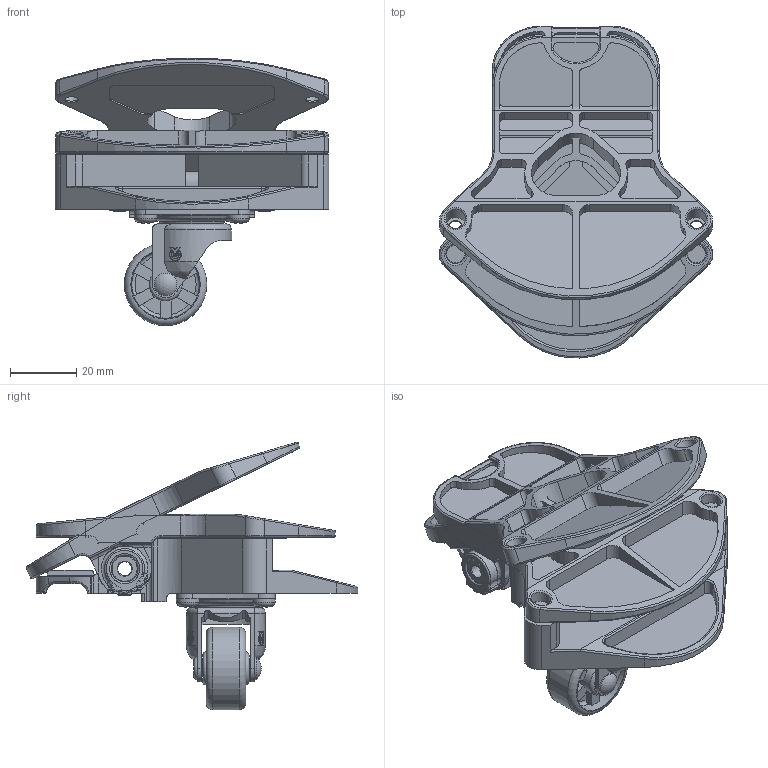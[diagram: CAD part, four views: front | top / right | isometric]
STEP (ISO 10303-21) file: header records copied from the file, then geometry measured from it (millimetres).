
FILE_DESCRIPTION(/* description */ (''),/* implementation_level */ '2;1');
FILE_NAME(/* name */ 'Z:\01-DesignData\標準品図面\★Web／カタログ用データ(型式別 3点Set)\014-CT-C／CT-B／CT-B-I(インダストリアルの意) 系\CT-C\CT-C 型.stp',/* time_stamp */ '2020-06-03T15:31:15+09:00',/* author */ ('m-suga'),/* organization */ (''),/* preprocessor_version */ 'ST-DEVELOPER v18.1',/* originating_system */ 'Autodesk Inventor 2020',/* authorisation */ '');
FILE_SCHEMA (('AUTOMOTIVE_DESIGN { 1 0 10303 214 3 1 1 }'));
Length unit declared in the file: millimetre
Products named in the file (15): 組立図-; ベース【最終試作：樹脂化】; G-25N; G-25N_gbody; G-25N_gshaft; L-25N; G-25N_gplate; BKJ4-4; プッシャー【最終試作：樹脂化】; CB-450CE(黄銅スペーサー：中空、ミスミ); SSHH-ST-M4-4_214; プッシャー【最終試作：樹脂化】_
1; TM-182-832-15(ウレタンロールストック、栃木屋); PZ75-MG; φ2x内10xdeg135(ダブルトーションばね、アキュレイト)
Assembly tree (23 placements, depth 3):
  組立図-
    ベース【最終試作：樹脂化】
    G-25N
      G-25N_gbody
      G-25N_gshaft
      L-25N
      G-25N_gplate
    BKJ4-4  x4
    プッシャー【最終試作：樹脂化】
    CB-450CE(黄銅スペーサー：中空、ミスミ)
    SSHH-ST-M4-4_214  x2
    プッシャー【最終試作：樹脂化】_
1
    TM-182-832-15(ウレタンロールストック、栃木屋)  x3
    PZ75-MG  x4
    φ2x内10xdeg135(ダブルトーションばね、アキュレイト)
Bounding box: 82.91 x 100.48 x 80.94 mm (x, y, z)
Volume: 64818.1 mm3; surface area: 61474.3 mm2
Topology: 22 solids, 22 shells, 1229 faces, 3260 edges, 2109 vertices
Faces by surface type: plane 519, cylinder 473, torus 122, bspline 49, cone 47, sphere 19
Full cylindrical faces by diameter (mm): 0.6 x2, 3.57 x4, 3.6 x8, 4 x12, 4.2 x5, 4.5 x3, 4.7 x1, 5.9 x6, 6 x4, 6.9 x1, 8 x1, 8.1 x4, 9 x2, 10 x2, 13.7 x1, 15 x3, 20.5 x2, 20.7 x1, 21.6 x1, 23.7 x1, 25 x1
Entity records: 39172 total; most frequent: CARTESIAN_POINT 10007, DIRECTION 6278, ORIENTED_EDGE 5918, EDGE_CURVE 2959, AXIS2_PLACEMENT_3D 2408, VERTEX_POINT 1912, LINE 1462, VECTOR 1462
